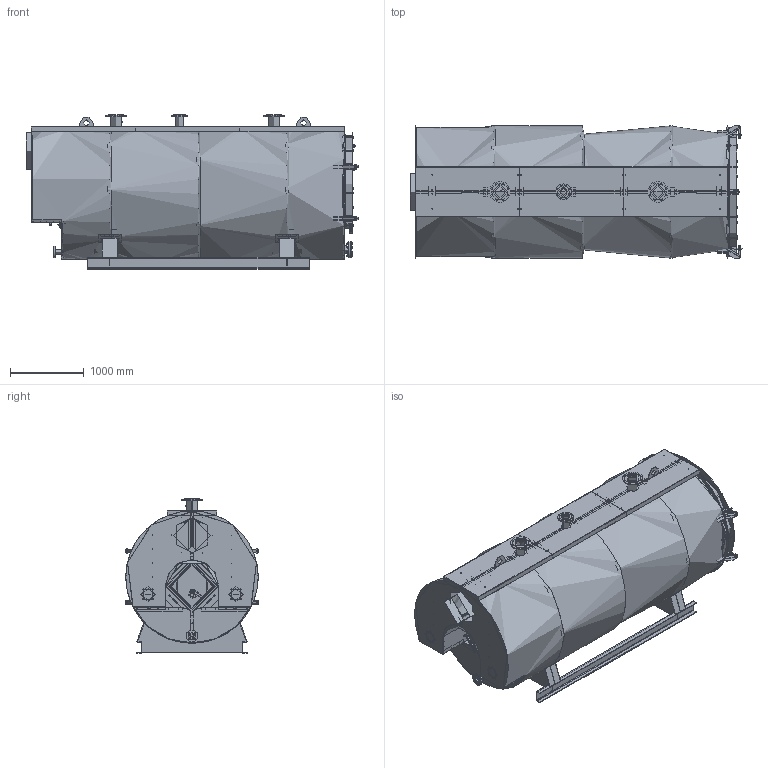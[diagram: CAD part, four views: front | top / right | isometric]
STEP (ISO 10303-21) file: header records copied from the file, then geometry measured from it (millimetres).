
FILE_DESCRIPTION(('STEP AP203'), '1');
FILE_NAME('Êîò¸ë âîäîãðåéíûé ñòàëüíîé 3-õ õîäîâîé (2,5-3,0 ÌÂò)', '2022-01-19T05:34:12', ('des11'), (''), 'ASCON STEP Converter 1.6', 'ASCON Math Kernel', '');
FILE_SCHEMA(('CONFIG_CONTROL_DESIGN'));
Length unit declared in the file: millimetre
Products named in the file (173): КЕВМ.3135.00.00.000; КЕВМ.3135.01.00.000; КЕВМ.3135.01.01.000-04; КЕВМ.3135.01.01.002-04; КЕВМ.3135.01.01.005-04; КЕВМ.3135.01.02.000; КЕВМ.3135.03.01.002; КЕВМ.3135.01.02.006; КЕВМ.3135.01.02.007; КЕВМ.3135.01.04.000; КЕВМ.3135.01.04.100-04; КЕВМ.3135.01.04.101-04; КЕВМ.3135.01.05.000-04 (подача); КЕВМ.3135.01.05.001; КЕВМ.3135.01.05.000-14 (обрат); КЕВМ.3135.01.05.001-14 (обрат); КЕВМ.3135.01.06.000-04; КЕВМ.3135.01.06.001; КЕВМ.3135.01.07.000; КЕВМ.3135.01.07.002; КЕВМ.3135.01.06.005-04; КЕВМ.3135.01.06.005-14; КЕВМ.3135.01.07.001-04; КЕВМ.3135.01.07.003-04; КЕВМ.3135.01.07.003-14; КЕВМ.3135.01.08.000; КЕВМ.3135.01.08.002; КЕВМ.3135.01.08.001; КЕВМ.3135.01.09.000-04; КЕВМ.3135.01.09.001; КЕВМ.3135.01.10.000; КЕВМ.3135.01.10.300; КЕВМ.3135.01.10.301-04; КЕВМ.3135.01.10.301-04 (правый); КЕВМ.3135.01.10.301-14; КЕВМ.3135.01.10.301-24; КЕВМ.3135.01.10.301-24 (правый); КЕВМ.3135.01.10.200-04; КЕВМ.3135.01.10.203; КЕВМ.3135.01.00.008-04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
Assembly tree (417 placements, depth 5):
  КЕВМ.3135.00.00.000
    КЕВМ.3135.01.00.000
      КЕВМ.3135.01.01.000-04
        КЕВМ.3135.01.01.002-04
        КЕВМ.3135.01.01.005-04
      КЕВМ.3135.01.02.000
        КЕВМ.3135.03.01.002
        КЕВМ.3135.01.02.006
        КЕВМ.3135.01.02.007
        (unnamed)  x8
      КЕВМ.3135.01.04.000
        КЕВМ.3135.01.04.100-04
          КЕВМ.3135.01.04.101-04
          (unnamed)
      КЕВМ.3135.01.05.000-04 (подача)
        КЕВМ.3135.01.05.001
        (unnamed)
        (unnamed)
      КЕВМ.3135.01.05.000-14 (обрат)
        КЕВМ.3135.01.05.001-14 (обрат)
        (unnamed)
      КЕВМ.3135.01.06.000-04
        КЕВМ.3135.01.06.001
        (unnamed)
      КЕВМ.3135.01.07.000
        КЕВМ.3135.01.07.002  x2
        КЕВМ.3135.01.06.005-04
        КЕВМ.3135.01.06.005-14
        КЕВМ.3135.01.07.001-04  x2
        КЕВМ.3135.01.07.003-04
        КЕВМ.3135.01.07.003-14  x3
      КЕВМ.3135.01.08.000  x2
        КЕВМ.3135.01.08.002
        КЕВМ.3135.01.08.001
      КЕВМ.3135.01.09.000-04
        КЕВМ.3135.01.09.001
        (unnamed)
      КЕВМ.3135.01.10.000
        КЕВМ.3135.01.10.300
          КЕВМ.3135.01.10.301-04
          КЕВМ.3135.01.10.301-04 (правый)
          КЕВМ.3135.01.10.301-14
          КЕВМ.3135.01.10.301-24
          КЕВМ.3135.01.10.301-24 (правый)
        КЕВМ.3135.01.10.200-04
          КЕВМ.3135.01.10.203  x14
      КЕВМ.3135.01.00.008-04  x2
      КЕВМ.3135.01.00.008-14  x2
      КЕВМ.3135.01.00.009-04  x3
      КЕВМ.3135.01.00.008-34
      КЕВМ.3135.01.00.008-24
      КЕВМ.3135.01.00.008-34
      КЕВМ.3135.01.00.008-24
      КЕВМ.3135.01.00.009-04
      КЕВМ.3135.01.11.000
        КЕВМ.3135.01.09.002-04  x2
      КЕВМ.3135.03.12.000
        КЕВМ.3135.01.12.002-04
      КЕВМ.3135.01.00.013-04
      КЕВМ.3135.01.00.013-14
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Bounding box: 4493 x 1792.4 x 2090 mm (x, y, z)
Volume: 109800312.6 mm3; surface area: 87105660.2 mm2
Topology: 402 solids, 406 shells, 5223 faces, 12187 edges, 7757 vertices
Faces by surface type: plane 2893, cylinder 1434, cone 456, bspline 346, torus 74, sphere 20
Full cylindrical faces by diameter (mm): 0 x4, 2 x4, 2.5 x8, 3 x2, 3.2 x4, 4 x16, 4.1 x153, 5 x8, 6 x30, 6.647 x16, 8 x8, 8.376 x8, 8.4 x8, 10 x18, 10.106 x22, 10.5 x18, 11 x30, 12 x42, 13 x32, 13.835 x16, 13.9 x4, 14 x24, 15 x12, 15.1 x2, 15.5 x8, 16 x22, 17 x24, 18 x32, 18.632 x1, 20 x20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
Entity records: 165159 total; most frequent: CARTESIAN_POINT 95144, DIRECTION 10866, ORIENTED_EDGE 10460, EDGE_CURVE 5230, AXIS2_PLACEMENT_3D 4082, EDGE_LOOP 3984, VERTEX_POINT 3725, FACE_BOUND 2735
